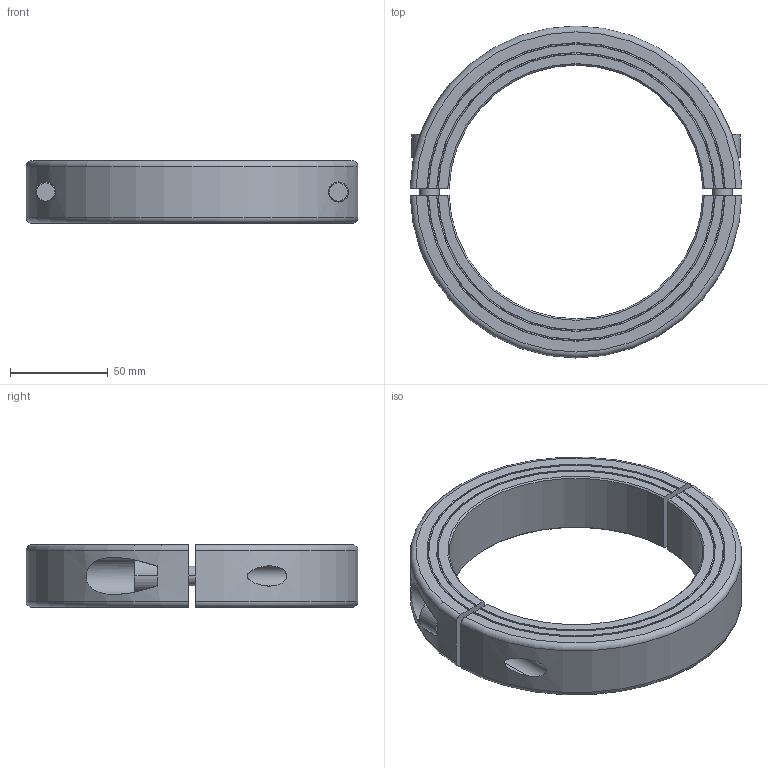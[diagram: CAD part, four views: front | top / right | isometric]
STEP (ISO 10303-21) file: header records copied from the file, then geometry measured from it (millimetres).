
FILE_DESCRIPTION((''),'2;1');
FILE_NAME('MSPH-130-F','2016-09-09T',('SYSTEM'),(''),'PRO/ENGINEER BY PARAMETRIC TECHNOLOGY CORPORATION, 2015110','PRO/ENGINEER BY PARAMETRIC TECHNOLOGY CORPORATION, 2015110','');
FILE_SCHEMA(('AUTOMOTIVE_DESIGN { 1 0 10303 214 1 1 1 1 }'));
Length unit declared in the file: millimetre
Products named in the file (1): MSPH-130-F
Bounding box: 169.97 x 170 x 32 mm (x, y, z)
Volume: 152424.5 mm3; surface area: 59076.2 mm2
Topology: 3 solids, 4 shells, 88 faces, 222 edges, 144 vertices
Faces by surface type: plane 34, cylinder 26, cone 20, torus 8
Entity records: 3515 total; most frequent: CARTESIAN_POINT 764, ORIENTED_EDGE 432, DIRECTION 416, EDGE_CURVE 222, AXIS2_PLACEMENT_3D 163, VERTEX_POINT 144, EDGE_LOOP 102, VECTOR 90
